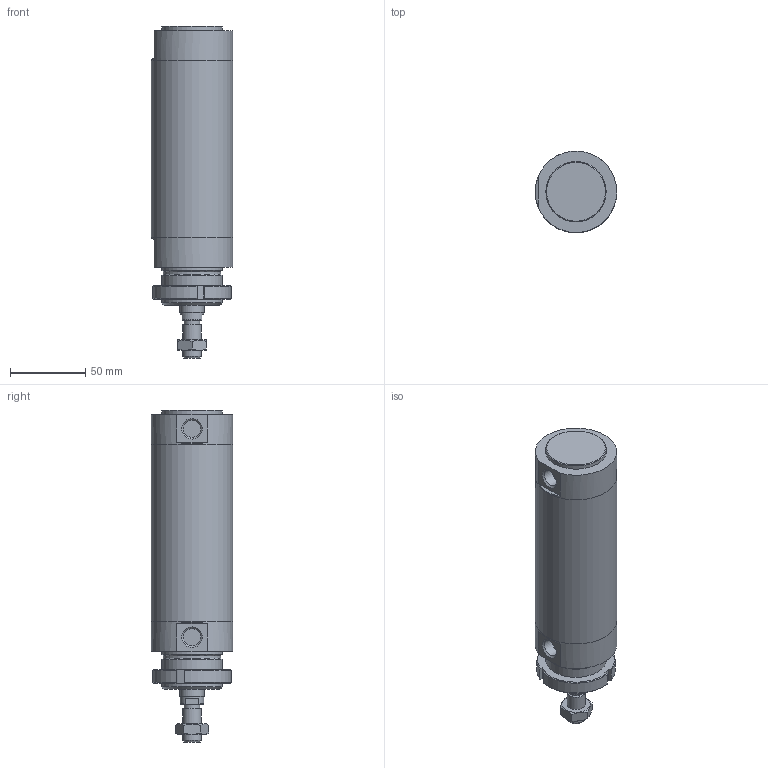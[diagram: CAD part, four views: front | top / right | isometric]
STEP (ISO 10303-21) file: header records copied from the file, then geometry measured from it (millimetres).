
FILE_DESCRIPTION(/* description */ (''),/* implementation_level */ '2;1');
FILE_NAME(/* name */ 'I:\Area Tecnica\Documenti\A-Manieri\_Inventor\12X\12X#D_###_####_#_#\12XAD_050_0075_#_#.stp',/* time_stamp */ '2015-04-29T16:44:05+02:00',/* author */ ('maniean1'),/* organization */ ('Pneumax S.p.A.'),/* preprocessor_version */ 'ST-DEVELOPER v15.2',/* originating_system */ 'Autodesk Inventor 2014',/* authorisation */ '');
FILE_SCHEMA (('AUTOMOTIVE_DESIGN { 1 0 10303 214 3 1 1 }'));
Length unit declared in the file: millimetre
Products named in the file (7): C1250_619-0075; 12X50_604; S12X50_0075; 12X_50_11; 12X50_611; G12X_050_05; 12XAD_050_0075_#_#
Bounding box: 54 x 54 x 220 mm (x, y, z)
Volume: 275053.5 mm3; surface area: 83806 mm2
Topology: 6 solids, 6 shells, 81 faces, 175 edges, 112 vertices
Faces by surface type: plane 41, cylinder 21, cone 19
Full cylindrical faces by diameter (mm): 10.2 x1, 11.4 x2, 12 x2, 14 x1, 15.6 x1, 16 x1, 38.2 x1, 40 x4, 50 x2, 54 x3
Entity records: 2155 total; most frequent: CARTESIAN_POINT 400, DIRECTION 364, ORIENTED_EDGE 284, AXIS2_PLACEMENT_3D 156, EDGE_CURVE 142, EDGE_LOOP 124, VERTEX_POINT 108, ADVANCED_FACE 81
